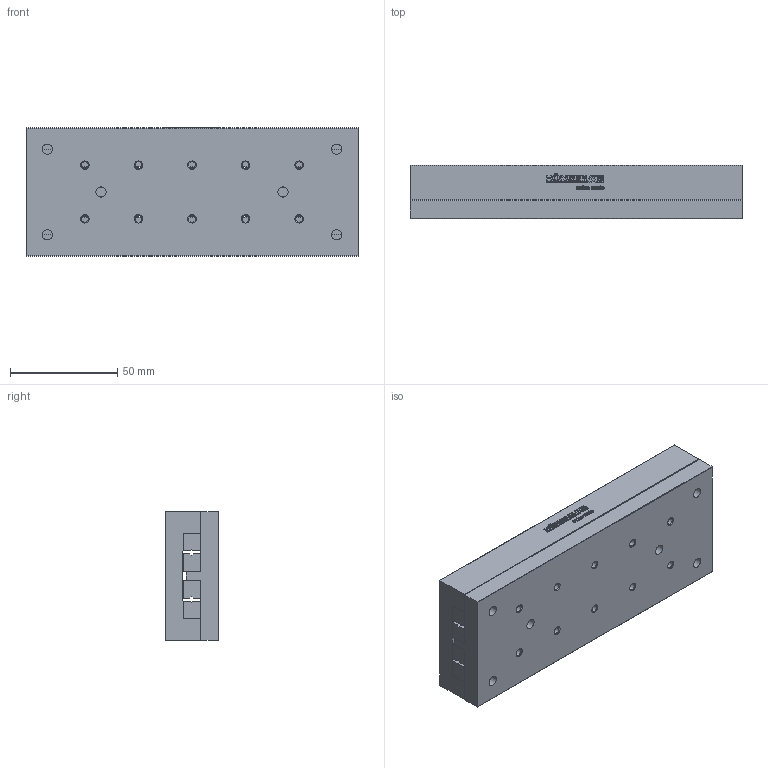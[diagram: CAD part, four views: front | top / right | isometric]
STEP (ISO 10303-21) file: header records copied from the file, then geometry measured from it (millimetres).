
FILE_DESCRIPTION(/* description */ ('STEP AP214'),/* implementation_level */ '2;1');
FILE_NAME(/* name */ 'NKL 3-155(0)',/* time_stamp */ '2025-04-23T07:59:44+02:00',/* author */ ('License CC BY-ND 4.0'),/* organization */ ('CADENAS'),/* preprocessor_version */ 'ST-DEVELOPER v19.3',/* originating_system */ 'PARTsolutions',/* authorisation */ ' ');
FILE_SCHEMA (('AUTOMOTIVE_DESIGN {1 0 10303 214 3 1 1}'));
Length unit declared in the file: millimetre
Products named in the file (3): NKL 3-155(0); NKL 3-155_1; NKL 3-155_2
Assembly tree (2 placements, depth 2):
  NKL 3-155(0)
    NKL 3-155_1
    NKL 3-155_2
Bounding box: 155 x 25 x 60 mm (x, y, z)
Volume: 223267.4 mm3; surface area: 65320.5 mm2
Topology: 2 solids, 2 shells, 659 faces, 1808 edges, 1180 vertices
Faces by surface type: cylinder 324, plane 295, cone 40
Full cylindrical faces by diameter (mm): 3.242 x20, 4.8 x6, 8 x6
Entity records: 20773 total; most frequent: DIRECTION 3748, CARTESIAN_POINT 3558, ORIENTED_EDGE 3452, EDGE_CURVE 1726, AXIS2_PLACEMENT_3D 1360, VERTEX_POINT 1170, LINE 1028, VECTOR 1028
